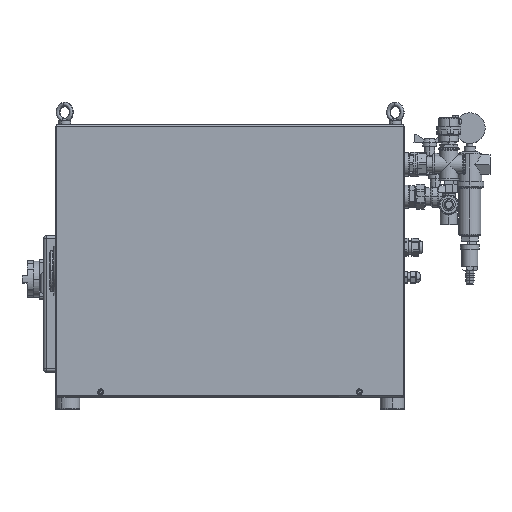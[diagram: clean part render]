
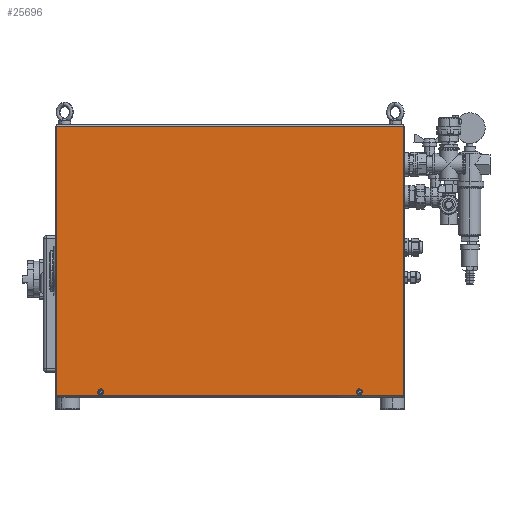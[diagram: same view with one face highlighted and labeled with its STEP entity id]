
A CAD part, top view. The second image highlights one B-rep face of the part: STEP entity #25696.
In plain terms, the highlighted planar face has unit normal (0, 0, 1).
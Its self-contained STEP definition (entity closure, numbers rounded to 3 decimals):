
#69 = EDGE_CURVE ( 'NONE', #30211, #61984, #50171, .T. ) ;
#227 = EDGE_CURVE ( 'NONE', #61984, #30211, #21428, .T. ) ;
#1585 = ORIENTED_EDGE ( 'NONE', *, *, #47339, .T. ) ;
#2275 = CARTESIAN_POINT ( 'NONE',  ( 230.155, -33.373, 578.5 ) ) ;
#2525 = ORIENTED_EDGE ( 'NONE', *, *, #6064, .F. ) ;
#3389 = CARTESIAN_POINT ( 'NONE',  ( 304.155, -35.373, 578.5 ) ) ;
#3811 = DIRECTION ( 'NONE',  ( -1., 0., 0. ) ) ;
#4026 = CARTESIAN_POINT ( 'NONE',  ( 304.155, 412.627, 578.5 ) ) ;
#5886 = DIRECTION ( 'NONE',  ( 0., -1., 0. ) ) ;
#5944 = EDGE_CURVE ( 'NONE', #49721, #10670, #48729, .T. ) ;
#6048 = CARTESIAN_POINT ( 'NONE',  ( -273.845, 416.627, 578.5 ) ) ;
#6064 = EDGE_CURVE ( 'NONE', #31481, #49721, #46244, .T. ) ;
#6310 = DIRECTION ( 'NONE',  ( 0., -1., 0. ) ) ;
#10469 = DIRECTION ( 'NONE',  ( -1., 0., 0. ) ) ;
#10556 = VECTOR ( 'NONE', #5886, 1000. ) ;
#10670 = VERTEX_POINT ( 'NONE', #34259 ) ;
#12685 = CARTESIAN_POINT ( 'NONE',  ( 230.155, -28.873, 578.5 ) ) ;
#12705 = DIRECTION ( 'NONE',  ( 0., 0., -1. ) ) ;
#12751 = DIRECTION ( 'NONE',  ( 0., -1., 0. ) ) ;
#16199 = EDGE_LOOP ( 'NONE', ( #52374, #32472 ) ) ;
#16571 = CARTESIAN_POINT ( 'NONE',  ( 230.155, -28.873, 578.5 ) ) ;
#16652 = DIRECTION ( 'NONE',  ( 0., 0., -1. ) ) ;
#16734 = DIRECTION ( 'NONE',  ( 0., -1., 0. ) ) ;
#18188 = AXIS2_PLACEMENT_3D ( 'NONE', #46974, #47128, #47187 ) ;
#19359 = CARTESIAN_POINT ( 'NONE',  ( -199.845, -33.373, 578.5 ) ) ;
#19647 = DIRECTION ( 'NONE',  ( 0., 1., 0. ) ) ;
#19664 = DIRECTION ( 'NONE',  ( 0., 0., -1. ) ) ;
#19715 = CARTESIAN_POINT ( 'NONE',  ( -199.845, -28.873, 578.5 ) ) ;
#20429 = AXIS2_PLACEMENT_3D ( 'NONE', #47046, #46964, #46729 ) ;
#21033 = ORIENTED_EDGE ( 'NONE', *, *, #5944, .F. ) ;
#21428 = CIRCLE ( 'NONE', #26033, 4.5 ) ;
#25696 = ADVANCED_FACE ( 'NONE', ( #39434, #39664, #39492 ), #45395, .F. ) ;
#26033 = AXIS2_PLACEMENT_3D ( 'NONE', #16571, #16652, #16734 ) ;
#26159 = ORIENTED_EDGE ( 'NONE', *, *, #69, .T. ) ;
#26894 = AXIS2_PLACEMENT_3D ( 'NONE', #12685, #12705, #12751 ) ;
#27805 = VECTOR ( 'NONE', #10469, 1000. ) ;
#29957 = VECTOR ( 'NONE', #3811, 1000. ) ;
#30211 = VERTEX_POINT ( 'NONE', #2275 ) ;
#30305 = LINE ( 'NONE', #4026, #29957 ) ;
#31481 = VERTEX_POINT ( 'NONE', #58390 ) ;
#32472 = ORIENTED_EDGE ( 'NONE', *, *, #44296, .T. ) ;
#34259 = CARTESIAN_POINT ( 'NONE',  ( -273.845, -35.373, 578.5 ) ) ;
#35272 = ORIENTED_EDGE ( 'NONE', *, *, #44837, .T. ) ;
#37152 = CIRCLE ( 'NONE', #20429, 4.5 ) ;
#37315 = CARTESIAN_POINT ( 'NONE',  ( 304.155, 416.627, 578.5 ) ) ;
#39434 = FACE_BOUND ( 'NONE', #16199, .T. ) ;
#39492 = FACE_BOUND ( 'NONE', #49755, .T. ) ;
#39664 = FACE_OUTER_BOUND ( 'NONE', #42249, .T. ) ;
#39775 = CIRCLE ( 'NONE', #46840, 4.5 ) ;
#41878 = CARTESIAN_POINT ( 'NONE',  ( 304.155, -35.373, 578.5 ) ) ;
#42249 = EDGE_LOOP ( 'NONE', ( #1585, #21033, #2525, #35272 ) ) ;
#44296 = EDGE_CURVE ( 'NONE', #53504, #48594, #39775, .T. ) ;
#44315 = CARTESIAN_POINT ( 'NONE',  ( -273.845, 412.627, 578.5 ) ) ;
#44486 = VECTOR ( 'NONE', #6310, 1000. ) ;
#44671 = LINE ( 'NONE', #6048, #44486 ) ;
#44837 = EDGE_CURVE ( 'NONE', #31481, #46105, #30305, .T. ) ;
#45395 = PLANE ( 'NONE',  #18188 ) ;
#46105 = VERTEX_POINT ( 'NONE', #44315 ) ;
#46244 = LINE ( 'NONE', #37315, #10556 ) ;
#46729 = DIRECTION ( 'NONE',  ( 0., 1., 0. ) ) ;
#46840 = AXIS2_PLACEMENT_3D ( 'NONE', #19715, #19664, #19647 ) ;
#46909 = CARTESIAN_POINT ( 'NONE',  ( -199.845, -24.373, 578.5 ) ) ;
#46964 = DIRECTION ( 'NONE',  ( 0., 0., -1. ) ) ;
#46974 = CARTESIAN_POINT ( 'NONE',  ( 304.155, 416.627, 578.5 ) ) ;
#47046 = CARTESIAN_POINT ( 'NONE',  ( -199.845, -28.873, 578.5 ) ) ;
#47128 = DIRECTION ( 'NONE',  ( 0., 0., -1. ) ) ;
#47187 = DIRECTION ( 'NONE',  ( 0., 1., 0. ) ) ;
#47339 = EDGE_CURVE ( 'NONE', #46105, #10670, #44671, .T. ) ;
#47714 = EDGE_CURVE ( 'NONE', #48594, #53504, #37152, .T. ) ;
#48594 = VERTEX_POINT ( 'NONE', #46909 ) ;
#48729 = LINE ( 'NONE', #41878, #27805 ) ;
#49721 = VERTEX_POINT ( 'NONE', #3389 ) ;
#49755 = EDGE_LOOP ( 'NONE', ( #26159, #53814 ) ) ;
#50171 = CIRCLE ( 'NONE', #26894, 4.5 ) ;
#52374 = ORIENTED_EDGE ( 'NONE', *, *, #47714, .T. ) ;
#53504 = VERTEX_POINT ( 'NONE', #19359 ) ;
#53814 = ORIENTED_EDGE ( 'NONE', *, *, #227, .T. ) ;
#53864 = CARTESIAN_POINT ( 'NONE',  ( 230.155, -24.373, 578.5 ) ) ;
#58390 = CARTESIAN_POINT ( 'NONE',  ( 304.155, 412.627, 578.5 ) ) ;
#61984 = VERTEX_POINT ( 'NONE', #53864 ) ;
